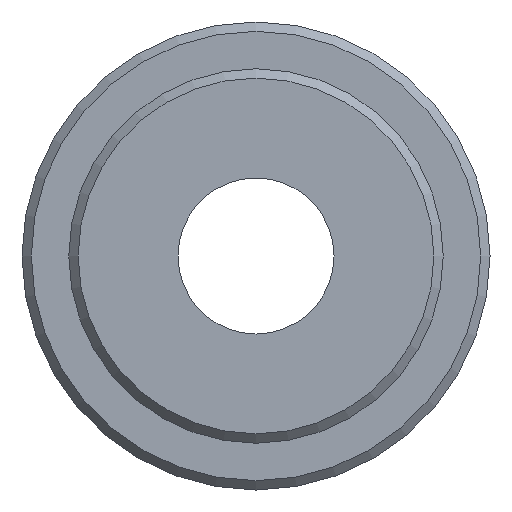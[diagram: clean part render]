
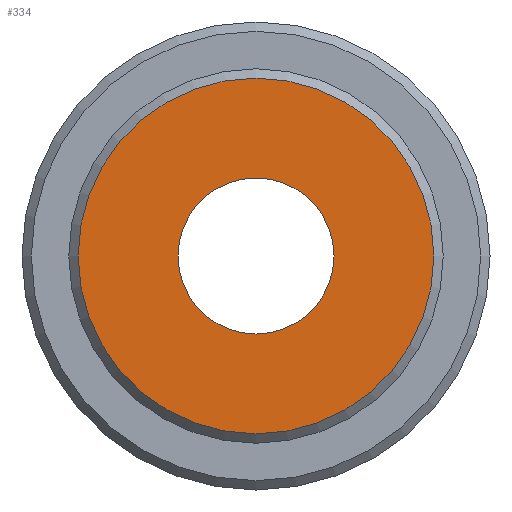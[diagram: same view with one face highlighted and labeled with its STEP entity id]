
A CAD part, front view. The second image highlights one B-rep face of the part: STEP entity #334.
In plain terms, the highlighted planar face has unit normal (0, -1, 0).
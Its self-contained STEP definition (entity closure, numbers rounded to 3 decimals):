
#22=FACE_BOUND('',#109,.T.);
#29=PLANE('',#411);
#82=FACE_OUTER_BOUND('',#108,.T.);
#108=EDGE_LOOP('',(#299));
#109=EDGE_LOOP('',(#300));
#127=CIRCLE('',#377,2.5);
#147=CIRCLE('',#409,5.7);
#158=VERTEX_POINT('',#567);
#177=VERTEX_POINT('',#625);
#192=EDGE_CURVE('',#158,#158,#127,.T.);
#219=EDGE_CURVE('',#177,#177,#147,.T.);
#299=ORIENTED_EDGE('',*,*,#219,.F.);
#300=ORIENTED_EDGE('',*,*,#192,.T.);
#334=ADVANCED_FACE('',(#82,#22),#29,.T.);
#377=AXIS2_PLACEMENT_3D('',#569,#451,#452);
#409=AXIS2_PLACEMENT_3D('',#627,#522,#523);
#411=AXIS2_PLACEMENT_3D('',#630,#527,#528);
#451=DIRECTION('center_axis',(0.,1.,0.));
#452=DIRECTION('ref_axis',(1.,0.,0.));
#522=DIRECTION('center_axis',(0.,1.,0.));
#523=DIRECTION('ref_axis',(-1.,0.,0.));
#527=DIRECTION('center_axis',(0.,-1.,0.));
#528=DIRECTION('ref_axis',(0.,0.,-1.));
#567=CARTESIAN_POINT('',(-2.5,0.,0.));
#569=CARTESIAN_POINT('Origin',(0.,0.,0.));
#625=CARTESIAN_POINT('',(5.7,0.,0.));
#627=CARTESIAN_POINT('Origin',(0.,0.,0.));
#630=CARTESIAN_POINT('Origin',(6.,0.,0.));
